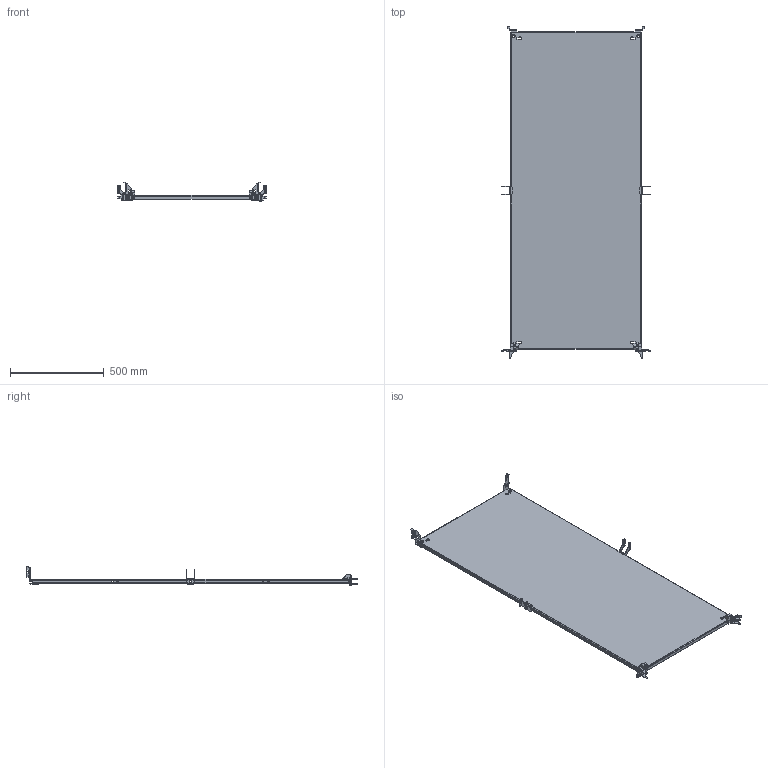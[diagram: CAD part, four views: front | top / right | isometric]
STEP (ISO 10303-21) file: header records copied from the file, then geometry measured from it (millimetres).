
FILE_DESCRIPTION (( 'STEP AP214' ), '1' );
FILE_NAME ('MSD 180.80 ÑÁ Ìîíòàæíàÿ ïàíåëü â ñáîðå.STEP', '2023-12-11T04:46:33', ( '' ), ( '' ), 'SwSTEP 2.0', 'SolidWorks 2019', '' );
FILE_SCHEMA (( 'AUTOMOTIVE_DESIGN' ));
Length unit declared in the file: millimetre
Products named in the file (8): BMD 6 Ôèêñàòîð ìîíòàæíîé ïàíåëè; MSD X.Y Ìîíòàæíàÿ ïàíåëü_MSD 180.80 Œ®­â ¦­ ï ¯ ­¥«ì; TS-012 Íèæíèé äåðæàòåëü ìîíòàæíîé ïàíåëè; TS-010_R Âåðõíèé äåðæàòåëü ìîíòàæíîé ïàíåëè; TS-010_L Âåðõíèé äåðæàòåëü ìîíòàæíîé ïàíåëè; MSD 180.80 ÑÁ Ìîíòàæíàÿ ïàíåëü â ñáîðå; TS-011_L Íèæíèé äåðæàòåëü ìîíòàæíîé ïàíåëè; TS-011_R Íèæíèé äåðæàòåëü ìîíòàæíîé ïàíåëè
Assembly tree (9 placements, depth 2):
  MSD 180.80 ÑÁ Ìîíòàæíàÿ ïàíåëü â ñáîðå
    MSD X.Y Ìîíòàæíàÿ ïàíåëü_MSD 180.80 Œ®­â ¦­ ï ¯ ­¥«ì
    TS-011_L Íèæíèé äåðæàòåëü ìîíòàæíîé ïàíåëè
    TS-011_R Íèæíèé äåðæàòåëü ìîíòàæíîé ïàíåëè
    TS-010_R Âåðõíèé äåðæàòåëü ìîíòàæíîé ïàíåëè
    TS-010_L Âåðõíèé äåðæàòåëü ìîíòàæíîé ïàíåëè
    TS-012 Íèæíèé äåðæàòåëü ìîíòàæíîé ïàíåëè  x2
    BMD 6 Ôèêñàòîð ìîíòàæíîé ïàíåëè  x2
Bounding box: 794 x 1771.5 x 103.7 mm (x, y, z)
Volume: 3468909.9 mm3; surface area: 2755138.4 mm2
Topology: 9 solids, 9 shells, 834 faces, 2274 edges, 1464 vertices
Faces by surface type: plane 450, cylinder 372, bspline 8, cone 4
Entity records: 21287 total; most frequent: CARTESIAN_POINT 4087, DIRECTION 3552, ORIENTED_EDGE 3540, EDGE_CURVE 1770, AXIS2_PLACEMENT_3D 1186, LINE 1180, VECTOR 1180, VERTEX_POINT 1142
